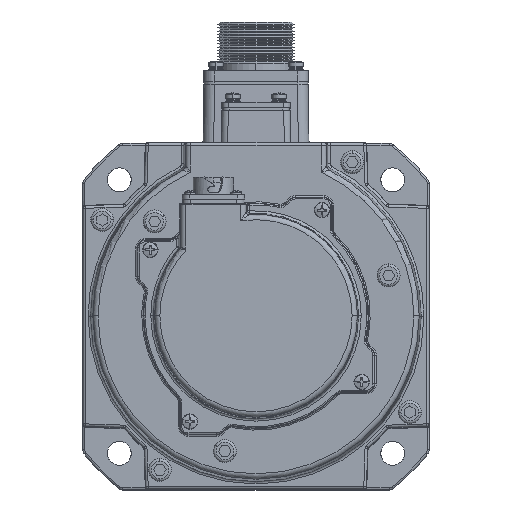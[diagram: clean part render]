
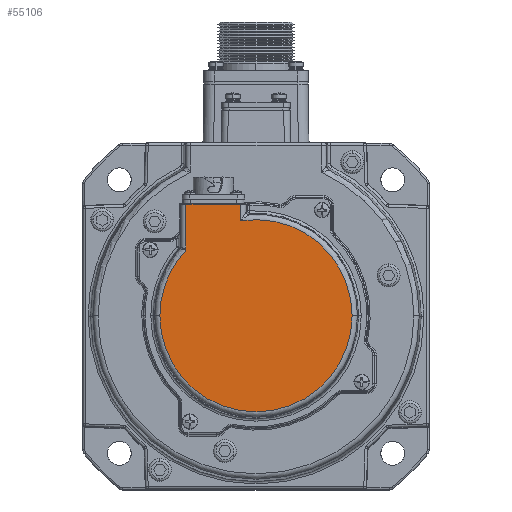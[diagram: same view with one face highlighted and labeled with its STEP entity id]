
A CAD part, top view. The second image highlights one B-rep face of the part: STEP entity #55106.
In plain terms, the highlighted planar face has unit normal (0, 0, 1).
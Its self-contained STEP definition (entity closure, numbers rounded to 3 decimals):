
#878 = CARTESIAN_POINT ( 'NONE',  ( -8.872, -56.273, -4.537 ) ) ;
#1230 = CARTESIAN_POINT ( 'NONE',  ( -14.587, -56.273, -4.537 ) ) ;
#4049 = DIRECTION ( 'NONE',  ( -1., 0., 0. ) ) ;
#9757 = CIRCLE ( 'NONE', #25203, 36.035 ) ;
#9793 = DIRECTION ( 'NONE',  ( -1., 0., 0. ) ) ;
#10025 = VERTEX_POINT ( 'NONE', #15897 ) ;
#10046 = LINE ( 'NONE', #86697, #101713 ) ;
#12307 = EDGE_LOOP ( 'NONE', ( #50309, #17053, #91649, #109486, #16609, #52289 ) ) ;
#15897 = CARTESIAN_POINT ( 'NONE',  ( -44.907, -56.273, -4.537 ) ) ;
#16007 = VERTEX_POINT ( 'NONE', #92958 ) ;
#16609 = ORIENTED_EDGE ( 'NONE', *, *, #52826, .T. ) ;
#17053 = ORIENTED_EDGE ( 'NONE', *, *, #95271, .T. ) ;
#19108 = DIRECTION ( 'NONE',  ( 0., 1., 0. ) ) ;
#21530 = CARTESIAN_POINT ( 'NONE',  ( -8.872, -56.273, -4.537 ) ) ;
#25203 = AXIS2_PLACEMENT_3D ( 'NONE', #88769, #35604, #97663 ) ;
#26867 = FACE_OUTER_BOUND ( 'NONE', #12307, .T. ) ;
#29658 = VERTEX_POINT ( 'NONE', #62037 ) ;
#30703 = AXIS2_PLACEMENT_3D ( 'NONE', #42803, #104792, #51715 ) ;
#35604 = DIRECTION ( 'NONE',  ( 0., 0., 1. ) ) ;
#36011 = CARTESIAN_POINT ( 'NONE',  ( -35.157, -56.273, -4.537 ) ) ;
#37765 = EDGE_CURVE ( 'NONE', #40202, #29658, #9757, .T. ) ;
#40202 = VERTEX_POINT ( 'NONE', #70430 ) ;
#40606 = EDGE_CURVE ( 'NONE', #16007, #10025, #46574, .T. ) ;
#42773 = EDGE_CURVE ( 'NONE', #29658, #88356, #107154, .T. ) ;
#42803 = CARTESIAN_POINT ( 'NONE',  ( -8.872, -56.273, -4.537 ) ) ;
#46574 = CIRCLE ( 'NONE', #30703, 36.035 ) ;
#46894 = CIRCLE ( 'NONE', #71121, 36.035 ) ;
#50309 = ORIENTED_EDGE ( 'NONE', *, *, #42773, .T. ) ;
#51715 = DIRECTION ( 'NONE',  ( -1., 0., 0. ) ) ;
#52289 = ORIENTED_EDGE ( 'NONE', *, *, #37765, .T. ) ;
#52826 = EDGE_CURVE ( 'NONE', #10025, #40202, #46894, .T. ) ;
#55106 = ADVANCED_FACE ( 'NONE', ( #26867 ), #110403, .T. ) ;
#56564 = CARTESIAN_POINT ( 'NONE',  ( -14.587, -14.523, -4.537 ) ) ;
#57278 = DIRECTION ( 'NONE',  ( 0., 0., 1. ) ) ;
#60211 = DIRECTION ( 'NONE',  ( -1., 0., 0. ) ) ;
#62037 = CARTESIAN_POINT ( 'NONE',  ( -14.587, -20.695, -4.537 ) ) ;
#62949 = DIRECTION ( 'NONE',  ( 0., 0., 1. ) ) ;
#63067 = AXIS2_PLACEMENT_3D ( 'NONE', #21530, #57278, #4049 ) ;
#66920 = VERTEX_POINT ( 'NONE', #90000 ) ;
#70430 = CARTESIAN_POINT ( 'NONE',  ( 27.163, -56.273, -4.537 ) ) ;
#71121 = AXIS2_PLACEMENT_3D ( 'NONE', #878, #62949, #9793 ) ;
#81167 = VECTOR ( 'NONE', #106923, 1000. ) ;
#83633 = VECTOR ( 'NONE', #19108, 1000. ) ;
#86697 = CARTESIAN_POINT ( 'NONE',  ( -8.872, -14.523, -4.537 ) ) ;
#88356 = VERTEX_POINT ( 'NONE', #56564 ) ;
#88769 = CARTESIAN_POINT ( 'NONE',  ( -8.872, -56.273, -4.537 ) ) ;
#90000 = CARTESIAN_POINT ( 'NONE',  ( -35.157, -14.523, -4.537 ) ) ;
#91649 = ORIENTED_EDGE ( 'NONE', *, *, #112328, .T. ) ;
#92958 = CARTESIAN_POINT ( 'NONE',  ( -35.157, -31.624, -4.537 ) ) ;
#95271 = EDGE_CURVE ( 'NONE', #88356, #66920, #10046, .T. ) ;
#97663 = DIRECTION ( 'NONE',  ( -1., 0., 0. ) ) ;
#101713 = VECTOR ( 'NONE', #60211, 1000. ) ;
#104677 = LINE ( 'NONE', #36011, #81167 ) ;
#104792 = DIRECTION ( 'NONE',  ( 0., 0., 1. ) ) ;
#106923 = DIRECTION ( 'NONE',  ( 0., -1., 0. ) ) ;
#107154 = LINE ( 'NONE', #1230, #83633 ) ;
#109486 = ORIENTED_EDGE ( 'NONE', *, *, #40606, .T. ) ;
#110403 = PLANE ( 'NONE',  #63067 ) ;
#112328 = EDGE_CURVE ( 'NONE', #66920, #16007, #104677, .T. ) ;
